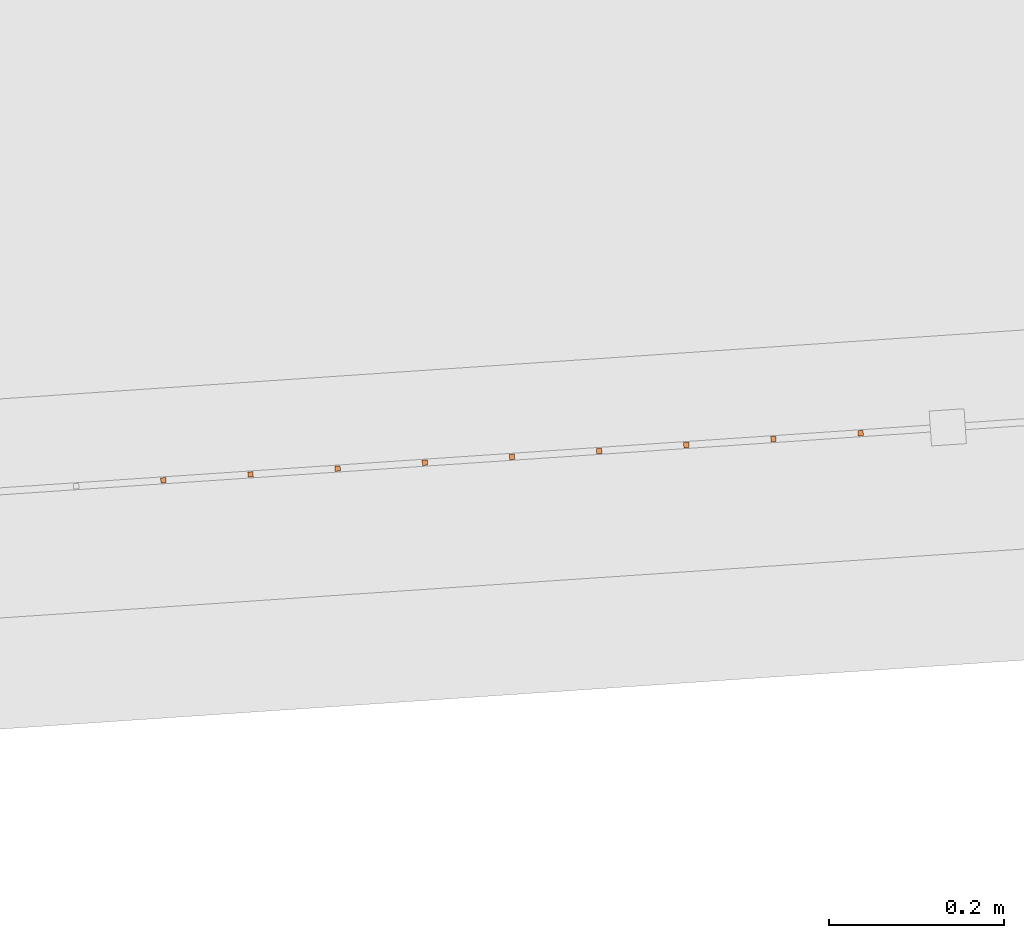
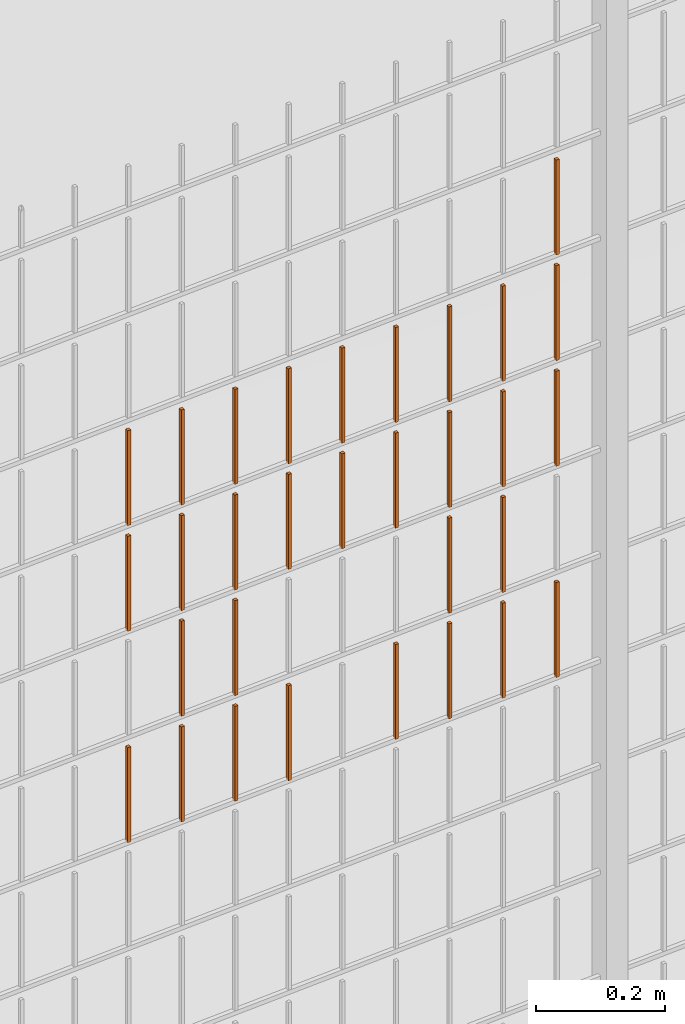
# One storey, part 335 of 1809: 31 proxies, 1 element without a shape of its own.
"""IFC2X3 building model written with IfcOpenShell, lengths in millimetres."""

from ifc_helpers import new_model, entity, si_unit, converted_unit, derived_unit, money_unit, direction, frame, origin_with_axes, place, context, subcontext, project, spatial, faceted_brep, source, transform, mapped, material, type_object, element, aggregate, save


model = new_model("IFC2X3")

# Units and contexts
model_context = context("Model", 3, precision=0.01, world=origin_with_axes(), true_north=direction((0.0, 1.0)))
body_context = subcontext(model_context, "Body", "Model", "MODEL_VIEW")
ifc_project = project(units=[si_unit("LENGTHUNIT", "METRE", prefix="MILLI"), si_unit("AREAUNIT", "SQUARE_METRE"), si_unit("VOLUMEUNIT", "CUBIC_METRE"), converted_unit("PLANEANGLEUNIT", "DEGREE", entity("IfcPlaneAngleMeasure", 0.0174532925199), si_unit("PLANEANGLEUNIT", "RADIAN"), dimensions=[0, 0, 0, 0, 0, 0, 0]), si_unit("SOLIDANGLEUNIT", "STERADIAN"), money_unit("EUR"), converted_unit("TIMEUNIT", "Year", entity("IfcTimeMeasure", 31556926.0), si_unit("TIMEUNIT", "SECOND"), dimensions=[0, 0, 1, 0, 0, 0, 0]), si_unit("MASSUNIT", "GRAM", prefix="KILO"), si_unit("THERMODYNAMICTEMPERATUREUNIT", "DEGREE_CELSIUS"), si_unit("LUMINOUSINTENSITYUNIT", "LUMEN"), si_unit("ENERGYUNIT", "JOULE", prefix="MEGA"), derived_unit("THERMALCONDUCTANCEUNIT", [(si_unit("POWERUNIT", "WATT"), 1), (si_unit("LENGTHUNIT", "METRE"), -1), (si_unit("THERMODYNAMICTEMPERATUREUNIT", "KELVIN"), -1)]), derived_unit("SPECIFICHEATCAPACITYUNIT", [(si_unit("ENERGYUNIT", "JOULE"), 1), (si_unit("MASSUNIT", "GRAM", prefix="KILO"), -1), (si_unit("THERMODYNAMICTEMPERATUREUNIT", "KELVIN"), -1)]), derived_unit("MASSDENSITYUNIT", [(si_unit("MASSUNIT", "GRAM", prefix="KILO"), 1), (si_unit("VOLUMEUNIT", "CUBIC_METRE"), -1)])], contexts=[model_context])

# Site, building, storey
site_placement = place(None, origin_with_axes())
site = spatial("IfcSite", under=ifc_project, at=site_placement, Name="Politse- ja Piirivalveameti ning Päästeameti ühishoone", CompositionType="ELEMENT")
building_placement = place(site_placement, origin_with_axes())
building = spatial("IfcBuilding", under=site, at=building_placement, Name="Politse- ja Piirivalveameti ning Päästeameti ühishoone", CompositionType="ELEMENT")
storey_placement = place(building_placement, origin_with_axes())
storey = spatial("IfcBuildingStorey", under=building, at=storey_placement, Name="Esimene korrus", CompositionType="ELEMENT", Elevation=0.0)

# Proxies
building_element_proxy_type_1 = type_object("IfcBuildingElementProxyType", Name="Railing Type", PredefinedType="NOTDEFINED")
proxy_1_placement = place(storey_placement, frame((89252.001212, -29183.4766571, 203.661247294), z_axis=(0.0, 0.0, 1.0), x_axis=(1.0, 0.0, 0.0)))
proxy_1 = element("IfcBuildingElementProxy", 1, at=proxy_1_placement, inside=storey, type_object=building_element_proxy_type_1, Name="PIIRDEAED")
ifc_material = material(Name="ET-03_Raud")
building_element_proxy_type_2 = type_object("IfcBuildingElementProxyType", Name="IfcBuildingElementProxy", PredefinedType="NOTDEFINED")
shared_shape_1 = source(origin_with_axes(), body_context, "Body", "Brep", [
    faceted_brep([(3.0, 3.0, -0.000752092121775), (-3.0, 3.0, -0.000752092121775), (-3.0, 3.0, 179.99926046), (3.0, 3.0, 179.99926046), (3.0, -3.0, 0.000752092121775), (-3.0, -3.0, 0.000752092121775), (-3.0, -3.0, 180.000764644), (3.0, -3.0, 180.000764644)], [[[0, 1, 2, 3]], [[0, 4, 5, 1]], [[1, 5, 6, 2]], [[3, 2, 6, 7]], [[4, 0, 3, 7]], [[5, 4, 7, 6]]]),
])
proxy_2_placement = place(proxy_1_placement, frame((-32352.9668747, -19483.0955783, 819.105099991), z_axis=(0.0, 0.0, 1.0), x_axis=(1.0, 0.0, 0.0)))
proxy_2 = element("IfcBuildingElementProxy", 2, at=proxy_2_placement, type_object=building_element_proxy_type_2, material=ifc_material, Name="BALUSTER - 001", context=body_context, shape_type="MappedRepresentation", body=[
    mapped(shared_shape_1, transform((0.0, 0.0, 0.0), x_axis=(-0.0673926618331, 0.997726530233, 0.0), y_axis=(-0.997726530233, -0.0673926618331, 0.0), z_axis=(0.0, 0.0, 1.0))),
])
shared_shape_2 = source(origin_with_axes(), body_context, "Body", "Brep", [
    faceted_brep([(3.0, 3.0, -0.000752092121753), (-3.0, 3.0, -0.000752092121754), (-3.0, 3.0, 179.99926046), (3.0, 3.0, 179.99926046), (3.0, -3.0, 0.000752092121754), (-3.0, -3.0, 0.000752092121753), (-3.0, -3.0, 180.000764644), (3.0, -3.0, 180.000764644)], [[[0, 1, 2, 3]], [[0, 4, 5, 1]], [[1, 5, 6, 2]], [[3, 2, 6, 7]], [[4, 0, 3, 7]], [[5, 4, 7, 6]]]),
])
proxy_3_placement = place(proxy_1_placement, frame((-32652.2848338, -19503.3133769, 1219.02989078), z_axis=(0.0, 0.0, 1.0), x_axis=(1.0, 0.0, 0.0)))
proxy_3 = element("IfcBuildingElementProxy", 3, at=proxy_3_placement, type_object=building_element_proxy_type_2, material=ifc_material, Name="BALUSTER - 001", context=body_context, shape_type="MappedRepresentation", body=[
    mapped(shared_shape_2, transform((0.0, 0.0, 0.0), x_axis=(-0.0673926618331, 0.997726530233, 0.0), y_axis=(-0.997726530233, -0.0673926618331, 0.0), z_axis=(0.0, 0.0, 1.0))),
])
shared_shape_3 = source(origin_with_axes(), body_context, "Body", "Brep", [
    faceted_brep([(3.0, 3.0, -0.000752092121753), (-3.0, 3.0, -0.000752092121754), (-3.0, 3.0, 179.99926046), (3.0, 3.0, 179.99926046), (3.0, -3.0, 0.000752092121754), (-3.0, -3.0, 0.000752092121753), (-3.0, -3.0, 180.000764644), (3.0, -3.0, 180.000764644)], [[[0, 1, 2, 3]], [[0, 4, 5, 1]], [[1, 5, 6, 2]], [[3, 2, 6, 7]], [[4, 0, 3, 7]], [[5, 4, 7, 6]]]),
])
proxy_4_placement = place(proxy_1_placement, frame((-32652.2848338, -19503.3133769, 1419.02989078), z_axis=(0.0, 0.0, 1.0), x_axis=(1.0, 0.0, 0.0)))
proxy_4 = element("IfcBuildingElementProxy", 4, at=proxy_4_placement, type_object=building_element_proxy_type_2, material=ifc_material, Name="BALUSTER - 001", context=body_context, shape_type="MappedRepresentation", body=[
    mapped(shared_shape_3, transform((0.0, 0.0, 0.0), x_axis=(-0.0673926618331, 0.997726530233, 0.0), y_axis=(-0.997726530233, -0.0673926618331, 0.0), z_axis=(0.0, 0.0, 1.0))),
])
shared_shape_4 = source(origin_with_axes(), body_context, "Body", "Brep", [
    faceted_brep([(3.0, 3.0, -0.000752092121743), (-3.0, 3.0, -0.000752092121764), (-3.0, 3.0, 179.99926046), (3.0, 3.0, 179.99926046), (3.0, -3.0, 0.000752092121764), (-3.0, -3.0, 0.000752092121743), (-3.0, -3.0, 180.000764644), (3.0, -3.0, 180.000764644)], [[[0, 1, 2, 3]], [[0, 4, 5, 1]], [[1, 5, 6, 2]], [[3, 2, 6, 7]], [[4, 0, 3, 7]], [[5, 4, 7, 6]]]),
])
proxy_5_placement = place(proxy_1_placement, frame((-33151.1480989, -19537.0097078, 818.904542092), z_axis=(0.0, 0.0, 1.0), x_axis=(1.0, 0.0, 0.0)))
proxy_5 = element("IfcBuildingElementProxy", 5, at=proxy_5_placement, type_object=building_element_proxy_type_2, material=ifc_material, Name="BALUSTER - 001", context=body_context, shape_type="MappedRepresentation", body=[
    mapped(shared_shape_4, transform((0.0, 0.0, 0.0), x_axis=(-0.0673926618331, 0.997726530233, 0.0), y_axis=(-0.997726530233, -0.0673926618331, 0.0), z_axis=(0.0, 0.0, 1.0))),
])
shared_shape_5 = source(origin_with_axes(), body_context, "Body", "Brep", [
    faceted_brep([(3.0, 3.0, -0.000752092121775), (-3.0, 3.0, -0.000752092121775), (-3.0, 3.0, 179.99926046), (3.0, 3.0, 179.99926046), (3.0, -3.0, 0.000752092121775), (-3.0, -3.0, 0.000752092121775), (-3.0, -3.0, 180.000764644), (3.0, -3.0, 180.000764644)], [[[0, 1, 2, 3]], [[0, 4, 5, 1]], [[1, 5, 6, 2]], [[3, 2, 6, 7]], [[4, 0, 3, 7]], [[5, 4, 7, 6]]]),
])
proxy_6_placement = place(proxy_1_placement, frame((-33051.3754459, -19530.2704416, 818.92961183), z_axis=(0.0, 0.0, 1.0), x_axis=(1.0, 0.0, 0.0)))
proxy_6 = element("IfcBuildingElementProxy", 6, at=proxy_6_placement, type_object=building_element_proxy_type_2, material=ifc_material, Name="BALUSTER - 001", context=body_context, shape_type="MappedRepresentation", body=[
    mapped(shared_shape_5, transform((0.0, 0.0, 0.0), x_axis=(-0.0673926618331, 0.997726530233, 0.0), y_axis=(-0.997726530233, -0.0673926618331, 0.0), z_axis=(0.0, 0.0, 1.0))),
])
shared_shape_6 = source(origin_with_axes(), body_context, "Body", "Brep", [
    faceted_brep([(3.0, 3.0, -0.000752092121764), (-3.0, 3.0, -0.000752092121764), (-3.0, 3.0, 179.99926046), (3.0, 3.0, 179.99926046), (3.0, -3.0, 0.000752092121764), (-3.0, -3.0, 0.000752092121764), (-3.0, -3.0, 180.000764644), (3.0, -3.0, 180.000764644)], [[[0, 1, 2, 3]], [[0, 4, 5, 1]], [[1, 5, 6, 2]], [[3, 2, 6, 7]], [[4, 0, 3, 7]], [[5, 4, 7, 6]]]),
])
proxy_7_placement = place(proxy_1_placement, frame((-32452.7395278, -19489.8348445, 819.080030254), z_axis=(0.0, 0.0, 1.0), x_axis=(1.0, 0.0, 0.0)))
proxy_7 = element("IfcBuildingElementProxy", 7, at=proxy_7_placement, type_object=building_element_proxy_type_2, material=ifc_material, Name="BALUSTER - 001", context=body_context, shape_type="MappedRepresentation", body=[
    mapped(shared_shape_6, transform((0.0, 0.0, 0.0), x_axis=(-0.0673926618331, 0.997726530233, 0.0), y_axis=(-0.997726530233, -0.0673926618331, 0.0), z_axis=(0.0, 0.0, 1.0))),
])
proxy_8_placement = place(proxy_1_placement, frame((-33151.1480989, -19537.0097078, 1218.90454209), z_axis=(0.0, 0.0, 1.0), x_axis=(1.0, 0.0, 0.0)))
proxy_8 = element("IfcBuildingElementProxy", 8, at=proxy_8_placement, type_object=building_element_proxy_type_2, material=ifc_material, Name="BALUSTER - 001", context=body_context, shape_type="MappedRepresentation", body=[
    mapped(shared_shape_6, transform((0.0, 0.0, 0.0), x_axis=(-0.0673926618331, 0.997726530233, 0.0), y_axis=(-0.997726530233, -0.0673926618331, 0.0), z_axis=(0.0, 0.0, 1.0))),
])
shared_shape_7 = source(origin_with_axes(), body_context, "Body", "Brep", [
    faceted_brep([(3.0, 3.0, -0.000752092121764), (-3.0, 3.0, -0.000752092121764), (-3.0, 3.0, 179.99926046), (3.0, 3.0, 179.99926046), (3.0, -3.0, 0.000752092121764), (-3.0, -3.0, 0.000752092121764), (-3.0, -3.0, 180.000764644), (3.0, -3.0, 180.000764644)], [[[0, 1, 2, 3]], [[0, 4, 5, 1]], [[1, 5, 6, 2]], [[3, 2, 6, 7]], [[4, 0, 3, 7]], [[5, 4, 7, 6]]]),
])
proxy_9_placement = place(proxy_1_placement, frame((-33151.1480989, -19537.0097078, 1418.90454209), z_axis=(0.0, 0.0, 1.0), x_axis=(1.0, 0.0, 0.0)))
proxy_9 = element("IfcBuildingElementProxy", 9, at=proxy_9_placement, type_object=building_element_proxy_type_2, material=ifc_material, Name="BALUSTER - 001", context=body_context, shape_type="MappedRepresentation", body=[
    mapped(shared_shape_7, transform((0.0, 0.0, 0.0), x_axis=(-0.0673926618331, 0.997726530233, 0.0), y_axis=(-0.997726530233, -0.0673926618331, 0.0), z_axis=(0.0, 0.0, 1.0))),
])
shared_shape_8 = source(origin_with_axes(), body_context, "Body", "Brep", [
    faceted_brep([(3.0, 3.0, -0.000752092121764), (-3.0, 3.0, -0.000752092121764), (-3.0, 3.0, 179.99926046), (3.0, 3.0, 179.99926046), (3.0, -3.0, 0.000752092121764), (-3.0, -3.0, 0.000752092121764), (-3.0, -3.0, 180.000764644), (3.0, -3.0, 180.000764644)], [[[0, 1, 2, 3]], [[0, 4, 5, 1]], [[1, 5, 6, 2]], [[3, 2, 6, 7]], [[4, 0, 3, 7]], [[5, 4, 7, 6]]]),
])
proxy_10_placement = place(proxy_1_placement, frame((-32552.5121808, -19496.5741107, 1219.05496052), z_axis=(0.0, 0.0, 1.0), x_axis=(1.0, 0.0, 0.0)))
proxy_10 = element("IfcBuildingElementProxy", 10, at=proxy_10_placement, type_object=building_element_proxy_type_2, material=ifc_material, Name="BALUSTER - 001", context=body_context, shape_type="MappedRepresentation", body=[
    mapped(shared_shape_8, transform((0.0, 0.0, 0.0), x_axis=(-0.0673926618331, 0.997726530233, 0.0), y_axis=(-0.997726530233, -0.0673926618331, 0.0), z_axis=(0.0, 0.0, 1.0))),
])
shared_shape_9 = source(origin_with_axes(), body_context, "Body", "Brep", [
    faceted_brep([(3.0, 3.0, -0.000752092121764), (-3.0, 3.0, -0.000752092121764), (-3.0, 3.0, 179.99926046), (3.0, 3.0, 179.99926046), (3.0, -3.0, 0.000752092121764), (-3.0, -3.0, 0.000752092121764), (-3.0, -3.0, 180.000764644), (3.0, -3.0, 180.000764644)], [[[0, 1, 2, 3]], [[0, 4, 5, 1]], [[1, 5, 6, 2]], [[3, 2, 6, 7]], [[4, 0, 3, 7]], [[5, 4, 7, 6]]]),
])
proxy_11_placement = place(proxy_1_placement, frame((-32851.8301399, -19516.7919092, 818.979751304), z_axis=(0.0, 0.0, 1.0), x_axis=(1.0, 0.0, 0.0)))
proxy_11 = element("IfcBuildingElementProxy", 11, at=proxy_11_placement, type_object=building_element_proxy_type_2, material=ifc_material, Name="BALUSTER - 001", context=body_context, shape_type="MappedRepresentation", body=[
    mapped(shared_shape_9, transform((0.0, 0.0, 0.0), x_axis=(-0.0673926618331, 0.997726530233, 0.0), y_axis=(-0.997726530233, -0.0673926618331, 0.0), z_axis=(0.0, 0.0, 1.0))),
])
shared_shape_10 = source(origin_with_axes(), body_context, "Body", "Brep", [
    faceted_brep([(3.0, 3.0, -0.000752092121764), (-3.0, 3.0, -0.000752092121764), (-3.0, 3.0, 179.99926046), (3.0, 3.0, 179.99926046), (3.0, -3.0, 0.000752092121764), (-3.0, -3.0, 0.000752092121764), (-3.0, -3.0, 180.000764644), (3.0, -3.0, 180.000764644)], [[[0, 1, 2, 3]], [[0, 4, 5, 1]], [[1, 5, 6, 2]], [[3, 2, 6, 7]], [[4, 0, 3, 7]], [[5, 4, 7, 6]]]),
])
proxy_12_placement = place(proxy_1_placement, frame((-33051.3754459, -19530.2704416, 1418.92961183), z_axis=(0.0, 0.0, 1.0), x_axis=(1.0, 0.0, 0.0)))
proxy_12 = element("IfcBuildingElementProxy", 12, at=proxy_12_placement, type_object=building_element_proxy_type_2, material=ifc_material, Name="BALUSTER - 001", context=body_context, shape_type="MappedRepresentation", body=[
    mapped(shared_shape_10, transform((0.0, 0.0, 0.0), x_axis=(-0.0673926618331, 0.997726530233, 0.0), y_axis=(-0.997726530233, -0.0673926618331, 0.0), z_axis=(0.0, 0.0, 1.0))),
])
shared_shape_11 = source(origin_with_axes(), body_context, "Body", "Brep", [
    faceted_brep([(3.0, 3.0, -0.000752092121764), (-3.0, 3.0, -0.000752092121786), (-3.0, 3.0, 179.99926046), (3.0, 3.0, 179.99926046), (3.0, -3.0, 0.000752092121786), (-3.0, -3.0, 0.000752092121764), (-3.0, -3.0, 180.000764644), (3.0, -3.0, 180.000764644)], [[[0, 1, 2, 3]], [[0, 4, 5, 1]], [[1, 5, 6, 2]], [[3, 2, 6, 7]], [[4, 0, 3, 7]], [[5, 4, 7, 6]]]),
])
proxy_13_placement = place(proxy_1_placement, frame((-32652.2848338, -19503.3133769, 819.029890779), z_axis=(0.0, 0.0, 1.0), x_axis=(1.0, 0.0, 0.0)))
proxy_13 = element("IfcBuildingElementProxy", 13, at=proxy_13_placement, type_object=building_element_proxy_type_2, material=ifc_material, Name="BALUSTER - 001", context=body_context, shape_type="MappedRepresentation", body=[
    mapped(shared_shape_11, transform((0.0, 0.0, 0.0), x_axis=(-0.0673926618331, 0.997726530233, 0.0), y_axis=(-0.997726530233, -0.0673926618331, 0.0), z_axis=(0.0, 0.0, 1.0))),
])
shared_shape_12 = source(origin_with_axes(), body_context, "Body", "Brep", [
    faceted_brep([(3.0, 3.0, -0.000752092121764), (-3.0, 3.0, -0.000752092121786), (-3.0, 3.0, 179.99926046), (3.0, 3.0, 179.99926046), (3.0, -3.0, 0.000752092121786), (-3.0, -3.0, 0.000752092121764), (-3.0, -3.0, 180.000764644), (3.0, -3.0, 180.000764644)], [[[0, 1, 2, 3]], [[0, 4, 5, 1]], [[1, 5, 6, 2]], [[3, 2, 6, 7]], [[4, 0, 3, 7]], [[5, 4, 7, 6]]]),
])
proxy_14_placement = place(proxy_1_placement, frame((-32951.6027929, -19523.5311754, 818.954681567), z_axis=(0.0, 0.0, 1.0), x_axis=(1.0, 0.0, 0.0)))
proxy_14 = element("IfcBuildingElementProxy", 14, at=proxy_14_placement, type_object=building_element_proxy_type_2, material=ifc_material, Name="BALUSTER - 001", context=body_context, shape_type="MappedRepresentation", body=[
    mapped(shared_shape_12, transform((0.0, 0.0, 0.0), x_axis=(-0.0673926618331, 0.997726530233, 0.0), y_axis=(-0.997726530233, -0.0673926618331, 0.0), z_axis=(0.0, 0.0, 1.0))),
])
shared_shape_13 = source(origin_with_axes(), body_context, "Body", "Brep", [
    faceted_brep([(3.0, 3.0, -0.000752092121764), (-3.0, 3.0, -0.000752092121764), (-3.0, 3.0, 179.99926046), (3.0, 3.0, 179.99926046), (3.0, -3.0, 0.000752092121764), (-3.0, -3.0, 0.000752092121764), (-3.0, -3.0, 180.000764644), (3.0, -3.0, 180.000764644)], [[[0, 1, 2, 3]], [[0, 4, 5, 1]], [[1, 5, 6, 2]], [[3, 2, 6, 7]], [[4, 0, 3, 7]], [[5, 4, 7, 6]]]),
])
proxy_15_placement = place(proxy_1_placement, frame((-33051.3754459, -19530.2704416, 1218.92961183), z_axis=(0.0, 0.0, 1.0), x_axis=(1.0, 0.0, 0.0)))
proxy_15 = element("IfcBuildingElementProxy", 15, at=proxy_15_placement, type_object=building_element_proxy_type_2, material=ifc_material, Name="BALUSTER - 001", context=body_context, shape_type="MappedRepresentation", body=[
    mapped(shared_shape_13, transform((0.0, 0.0, 0.0), x_axis=(-0.0673926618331, 0.997726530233, 0.0), y_axis=(-0.997726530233, -0.0673926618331, 0.0), z_axis=(0.0, 0.0, 1.0))),
])
shared_shape_14 = source(origin_with_axes(), body_context, "Body", "Brep", [
    faceted_brep([(3.0, 3.0, -0.000752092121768), (-3.0, 3.0, -0.000752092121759), (-3.00000000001, 2.99999999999, 179.99926046), (2.99999999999, 2.99999999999, 179.99926046), (3.0, -3.0, 0.000752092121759), (-3.0, -3.0, 0.000752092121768), (-3.00000000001, -3.00000000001, 180.000764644), (2.99999999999, -3.00000000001, 180.000764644)], [[[0, 1, 2, 3]], [[0, 4, 5, 1]], [[1, 5, 6, 2]], [[3, 2, 6, 7]], [[4, 0, 3, 7]], [[5, 4, 7, 6]]]),
])
proxy_16_placement = place(proxy_1_placement, frame((-32552.5121808, -19496.5741107, 1019.05496052), z_axis=(0.0, 0.0, 1.0), x_axis=(1.0, 0.0, 0.0)))
proxy_16 = element("IfcBuildingElementProxy", 16, at=proxy_16_placement, type_object=building_element_proxy_type_2, material=ifc_material, Name="BALUSTER - 001", context=body_context, shape_type="MappedRepresentation", body=[
    mapped(shared_shape_14, transform((0.0, 0.0, 0.0), x_axis=(-0.0673926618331, 0.997726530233, 0.0), y_axis=(-0.997726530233, -0.0673926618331, 0.0), z_axis=(0.0, 0.0, 1.0))),
])
shared_shape_15 = source(origin_with_axes(), body_context, "Body", "Brep", [
    faceted_brep([(3.0, 3.0, -0.000752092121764), (-3.0, 3.0, -0.000752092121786), (-3.0, 3.0, 179.99926046), (3.0, 3.0, 179.99926046), (3.0, -3.0, 0.000752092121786), (-3.0, -3.0, 0.000752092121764), (-3.0, -3.0, 180.000764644), (3.0, -3.0, 180.000764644)], [[[0, 1, 2, 3]], [[0, 4, 5, 1]], [[1, 5, 6, 2]], [[3, 2, 6, 7]], [[4, 0, 3, 7]], [[5, 4, 7, 6]]]),
])
proxy_17_placement = place(proxy_1_placement, frame((-32951.6027929, -19523.5311754, 1218.95468157), z_axis=(0.0, 0.0, 1.0), x_axis=(1.0, 0.0, 0.0)))
proxy_17 = element("IfcBuildingElementProxy", 17, at=proxy_17_placement, type_object=building_element_proxy_type_2, material=ifc_material, Name="BALUSTER - 001", context=body_context, shape_type="MappedRepresentation", body=[
    mapped(shared_shape_15, transform((0.0, 0.0, 0.0), x_axis=(-0.0673926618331, 0.997726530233, 0.0), y_axis=(-0.997726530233, -0.0673926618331, 0.0), z_axis=(0.0, 0.0, 1.0))),
])
shared_shape_16 = source(origin_with_axes(), body_context, "Body", "Brep", [
    faceted_brep([(3.0, 3.0, -0.000752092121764), (-3.0, 3.0, -0.000752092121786), (-3.0, 3.0, 179.99926046), (3.0, 3.0, 179.99926046), (3.0, -3.0, 0.000752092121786), (-3.0, -3.0, 0.000752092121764), (-3.0, -3.0, 180.000764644), (3.0, -3.0, 180.000764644)], [[[0, 1, 2, 3]], [[0, 4, 5, 1]], [[1, 5, 6, 2]], [[3, 2, 6, 7]], [[4, 0, 3, 7]], [[5, 4, 7, 6]]]),
])
proxy_18_placement = place(proxy_1_placement, frame((-32951.6027929, -19523.5311754, 1418.95468157), z_axis=(0.0, 0.0, 1.0), x_axis=(1.0, 0.0, 0.0)))
proxy_18 = element("IfcBuildingElementProxy", 18, at=proxy_18_placement, type_object=building_element_proxy_type_2, material=ifc_material, Name="BALUSTER - 001", context=body_context, shape_type="MappedRepresentation", body=[
    mapped(shared_shape_16, transform((0.0, 0.0, 0.0), x_axis=(-0.0673926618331, 0.997726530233, 0.0), y_axis=(-0.997726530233, -0.0673926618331, 0.0), z_axis=(0.0, 0.0, 1.0))),
])
shared_shape_17 = source(origin_with_axes(), body_context, "Body", "Brep", [
    faceted_brep([(3.0, 3.0, -0.000752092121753), (-3.0, 3.0, -0.000752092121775), (-3.0, 3.0, 179.99926046), (3.0, 3.0, 179.99926046), (3.0, -3.0, 0.000752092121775), (-3.0, -3.0, 0.000752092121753), (-3.0, -3.0, 180.000764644), (3.0, -3.0, 180.000764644)], [[[0, 1, 2, 3]], [[0, 4, 5, 1]], [[1, 5, 6, 2]], [[3, 2, 6, 7]], [[4, 0, 3, 7]], [[5, 4, 7, 6]]]),
])
proxy_19_placement = place(proxy_1_placement, frame((-32752.0574868, -19510.052643, 1219.00482104), z_axis=(0.0, 0.0, 1.0), x_axis=(1.0, 0.0, 0.0)))
proxy_19 = element("IfcBuildingElementProxy", 19, at=proxy_19_placement, type_object=building_element_proxy_type_2, material=ifc_material, Name="BALUSTER - 001", context=body_context, shape_type="MappedRepresentation", body=[
    mapped(shared_shape_17, transform((0.0, 0.0, 0.0), x_axis=(-0.0673926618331, 0.997726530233, 0.0), y_axis=(-0.997726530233, -0.0673926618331, 0.0), z_axis=(0.0, 0.0, 1.0))),
])
shared_shape_18 = source(origin_with_axes(), body_context, "Body", "Brep", [
    faceted_brep([(3.0, 3.0, -0.000752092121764), (-3.0, 3.0, -0.000752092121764), (-3.0, 3.0, 179.99926046), (3.0, 3.0, 179.99926046), (3.0, -3.0, 0.000752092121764), (-3.0, -3.0, 0.000752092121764), (-3.0, -3.0, 180.000764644), (3.0, -3.0, 180.000764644)], [[[0, 1, 2, 3]], [[0, 4, 5, 1]], [[1, 5, 6, 2]], [[3, 2, 6, 7]], [[4, 0, 3, 7]], [[5, 4, 7, 6]]]),
])
proxy_20_placement = place(proxy_1_placement, frame((-32352.9668747, -19483.0955783, 1619.10509999), z_axis=(0.0, 0.0, 1.0), x_axis=(1.0, 0.0, 0.0)))
proxy_20 = element("IfcBuildingElementProxy", 20, at=proxy_20_placement, type_object=building_element_proxy_type_2, material=ifc_material, Name="BALUSTER - 001", context=body_context, shape_type="MappedRepresentation", body=[
    mapped(shared_shape_18, transform((0.0, 0.0, 0.0), x_axis=(-0.0673926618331, 0.997726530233, 0.0), y_axis=(-0.997726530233, -0.0673926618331, 0.0), z_axis=(0.0, 0.0, 1.0))),
])
shared_shape_19 = source(origin_with_axes(), body_context, "Body", "Brep", [
    faceted_brep([(3.0, 3.0, -0.000752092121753), (-3.0, 3.0, -0.000752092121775), (-3.0, 3.0, 179.99926046), (3.0, 3.0, 179.99926046), (3.0, -3.0, 0.000752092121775), (-3.0, -3.0, 0.000752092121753), (-3.0, -3.0, 180.000764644), (3.0, -3.0, 180.000764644)], [[[0, 1, 2, 3]], [[0, 4, 5, 1]], [[1, 5, 6, 2]], [[3, 2, 6, 7]], [[4, 0, 3, 7]], [[5, 4, 7, 6]]]),
])
proxy_21_placement = place(proxy_1_placement, frame((-32851.8301399, -19516.7919092, 1218.9797513), z_axis=(0.0, 0.0, 1.0), x_axis=(1.0, 0.0, 0.0)))
proxy_21 = element("IfcBuildingElementProxy", 21, at=proxy_21_placement, type_object=building_element_proxy_type_2, material=ifc_material, Name="BALUSTER - 001", context=body_context, shape_type="MappedRepresentation", body=[
    mapped(shared_shape_19, transform((0.0, 0.0, 0.0), x_axis=(-0.0673926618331, 0.997726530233, 0.0), y_axis=(-0.997726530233, -0.0673926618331, 0.0), z_axis=(0.0, 0.0, 1.0))),
])
shared_shape_20 = source(origin_with_axes(), body_context, "Body", "Brep", [
    faceted_brep([(3.0, 3.0, -0.000752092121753), (-3.0, 3.0, -0.000752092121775), (-3.0, 3.0, 179.99926046), (3.0, 3.0, 179.99926046), (3.0, -3.0, 0.000752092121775), (-3.0, -3.0, 0.000752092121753), (-3.0, -3.0, 180.000764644), (3.0, -3.0, 180.000764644)], [[[0, 1, 2, 3]], [[0, 4, 5, 1]], [[1, 5, 6, 2]], [[3, 2, 6, 7]], [[4, 0, 3, 7]], [[5, 4, 7, 6]]]),
])
proxy_22_placement = place(proxy_1_placement, frame((-32752.0574868, -19510.052643, 1419.00482104), z_axis=(0.0, 0.0, 1.0), x_axis=(1.0, 0.0, 0.0)))
proxy_22 = element("IfcBuildingElementProxy", 22, at=proxy_22_placement, type_object=building_element_proxy_type_2, material=ifc_material, Name="BALUSTER - 001", context=body_context, shape_type="MappedRepresentation", body=[
    mapped(shared_shape_20, transform((0.0, 0.0, 0.0), x_axis=(-0.0673926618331, 0.997726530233, 0.0), y_axis=(-0.997726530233, -0.0673926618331, 0.0), z_axis=(0.0, 0.0, 1.0))),
])
shared_shape_21 = source(origin_with_axes(), body_context, "Body", "Brep", [
    faceted_brep([(3.0, 3.0, -0.000752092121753), (-3.0, 3.0, -0.000752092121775), (-3.0, 3.0, 179.99926046), (3.0, 3.0, 179.99926046), (3.0, -3.0, 0.000752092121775), (-3.0, -3.0, 0.000752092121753), (-3.0, -3.0, 180.000764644), (3.0, -3.0, 180.000764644)], [[[0, 1, 2, 3]], [[0, 4, 5, 1]], [[1, 5, 6, 2]], [[3, 2, 6, 7]], [[4, 0, 3, 7]], [[5, 4, 7, 6]]]),
])
proxy_23_placement = place(proxy_1_placement, frame((-32851.8301399, -19516.7919092, 1418.9797513), z_axis=(0.0, 0.0, 1.0), x_axis=(1.0, 0.0, 0.0)))
proxy_23 = element("IfcBuildingElementProxy", 23, at=proxy_23_placement, type_object=building_element_proxy_type_2, material=ifc_material, Name="BALUSTER - 001", context=body_context, shape_type="MappedRepresentation", body=[
    mapped(shared_shape_21, transform((0.0, 0.0, 0.0), x_axis=(-0.0673926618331, 0.997726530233, 0.0), y_axis=(-0.997726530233, -0.0673926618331, 0.0), z_axis=(0.0, 0.0, 1.0))),
])
shared_shape_22 = source(origin_with_axes(), body_context, "Body", "Brep", [
    faceted_brep([(3.0, 3.0, -0.000752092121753), (-3.0, 3.0, -0.000752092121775), (-3.0, 3.0, 179.99926046), (3.0, 3.0, 179.99926046), (3.0, -3.0, 0.000752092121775), (-3.0, -3.0, 0.000752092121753), (-3.0, -3.0, 180.000764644), (3.0, -3.0, 180.000764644)], [[[0, 1, 2, 3]], [[0, 4, 5, 1]], [[1, 5, 6, 2]], [[3, 2, 6, 7]], [[4, 0, 3, 7]], [[5, 4, 7, 6]]]),
])
proxy_24_placement = place(proxy_1_placement, frame((-32552.5121808, -19496.5741107, 819.054960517), z_axis=(0.0, 0.0, 1.0), x_axis=(1.0, 0.0, 0.0)))
proxy_24 = element("IfcBuildingElementProxy", 24, at=proxy_24_placement, type_object=building_element_proxy_type_2, material=ifc_material, Name="BALUSTER - 001", context=body_context, shape_type="MappedRepresentation", body=[
    mapped(shared_shape_22, transform((0.0, 0.0, 0.0), x_axis=(-0.0673926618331, 0.997726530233, 0.0), y_axis=(-0.997726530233, -0.0673926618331, 0.0), z_axis=(0.0, 0.0, 1.0))),
])
shared_shape_23 = source(origin_with_axes(), body_context, "Body", "Brep", [
    faceted_brep([(3.0, 3.0, -0.000752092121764), (-3.0, 3.0, -0.000752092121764), (-3.0, 3.0, 179.99926046), (3.0, 3.0, 179.99926046), (3.0, -3.0, 0.000752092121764), (-3.0, -3.0, 0.000752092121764), (-3.0, -3.0, 180.000764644), (3.0, -3.0, 180.000764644)], [[[0, 1, 2, 3]], [[0, 4, 5, 1]], [[1, 5, 6, 2]], [[3, 2, 6, 7]], [[4, 0, 3, 7]], [[5, 4, 7, 6]]]),
])
proxy_25_placement = place(proxy_1_placement, frame((-32352.9668747, -19483.0955783, 1219.10509999), z_axis=(0.0, 0.0, 1.0), x_axis=(1.0, 0.0, 0.0)))
proxy_25 = element("IfcBuildingElementProxy", 25, at=proxy_25_placement, type_object=building_element_proxy_type_2, material=ifc_material, Name="BALUSTER - 001", context=body_context, shape_type="MappedRepresentation", body=[
    mapped(shared_shape_23, transform((0.0, 0.0, 0.0), x_axis=(-0.0673926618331, 0.997726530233, 0.0), y_axis=(-0.997726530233, -0.0673926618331, 0.0), z_axis=(0.0, 0.0, 1.0))),
])
shared_shape_24 = source(origin_with_axes(), body_context, "Body", "Brep", [
    faceted_brep([(3.0, 3.0, -0.000752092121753), (-3.0, 3.0, -0.000752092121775), (-3.0, 3.0, 179.99926046), (3.0, 3.0, 179.99926046), (3.0, -3.0, 0.000752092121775), (-3.0, -3.0, 0.000752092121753), (-3.0, -3.0, 180.000764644), (3.0, -3.0, 180.000764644)], [[[0, 1, 2, 3]], [[0, 4, 5, 1]], [[1, 5, 6, 2]], [[3, 2, 6, 7]], [[4, 0, 3, 7]], [[5, 4, 7, 6]]]),
])
proxy_26_placement = place(proxy_1_placement, frame((-32452.7395278, -19489.8348445, 1219.08003025), z_axis=(0.0, 0.0, 1.0), x_axis=(1.0, 0.0, 0.0)))
proxy_26 = element("IfcBuildingElementProxy", 26, at=proxy_26_placement, type_object=building_element_proxy_type_2, material=ifc_material, Name="BALUSTER - 001", context=body_context, shape_type="MappedRepresentation", body=[
    mapped(shared_shape_24, transform((0.0, 0.0, 0.0), x_axis=(-0.0673926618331, 0.997726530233, 0.0), y_axis=(-0.997726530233, -0.0673926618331, 0.0), z_axis=(0.0, 0.0, 1.0))),
])
shared_shape_25 = source(origin_with_axes(), body_context, "Body", "Brep", [
    faceted_brep([(3.0, 3.0, -0.000752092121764), (-3.0, 3.0, -0.000752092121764), (-3.0, 3.0, 179.99926046), (3.0, 3.0, 179.99926046), (3.0, -3.0, 0.000752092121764), (-3.0, -3.0, 0.000752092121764), (-3.0, -3.0, 180.000764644), (3.0, -3.0, 180.000764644)], [[[0, 1, 2, 3]], [[0, 4, 5, 1]], [[1, 5, 6, 2]], [[3, 2, 6, 7]], [[4, 0, 3, 7]], [[5, 4, 7, 6]]]),
])
proxy_27_placement = place(proxy_1_placement, frame((-32352.9668747, -19483.0955783, 1419.10509999), z_axis=(0.0, 0.0, 1.0), x_axis=(1.0, 0.0, 0.0)))
proxy_27 = element("IfcBuildingElementProxy", 27, at=proxy_27_placement, type_object=building_element_proxy_type_2, material=ifc_material, Name="BALUSTER - 001", context=body_context, shape_type="MappedRepresentation", body=[
    mapped(shared_shape_25, transform((0.0, 0.0, 0.0), x_axis=(-0.0673926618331, 0.997726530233, 0.0), y_axis=(-0.997726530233, -0.0673926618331, 0.0), z_axis=(0.0, 0.0, 1.0))),
])
shared_shape_26 = source(origin_with_axes(), body_context, "Body", "Brep", [
    faceted_brep([(3.0, 3.0, -0.000752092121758), (-3.0, 3.0, -0.00075209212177), (-3.00000000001, 3.0, 179.99926046), (2.99999999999, 3.0, 179.99926046), (3.0, -3.0, 0.00075209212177), (-3.0, -3.0, 0.000752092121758), (-3.00000000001, -3.0, 180.000764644), (2.99999999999, -3.0, 180.000764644)], [[[0, 1, 2, 3]], [[0, 4, 5, 1]], [[1, 5, 6, 2]], [[3, 2, 6, 7]], [[4, 0, 3, 7]], [[5, 4, 7, 6]]]),
])
proxy_28_placement = place(proxy_1_placement, frame((-32951.6027929, -19523.5311754, 1018.95468157), z_axis=(0.0, 0.0, 1.0), x_axis=(1.0, 0.0, 0.0)))
proxy_28 = element("IfcBuildingElementProxy", 28, at=proxy_28_placement, type_object=building_element_proxy_type_2, material=ifc_material, Name="BALUSTER - 001", context=body_context, shape_type="MappedRepresentation", body=[
    mapped(shared_shape_26, transform((0.0, 0.0, 0.0), x_axis=(-0.0673926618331, 0.997726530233, 0.0), y_axis=(-0.997726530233, -0.0673926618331, 0.0), z_axis=(0.0, 0.0, 1.0))),
])
shared_shape_27 = source(origin_with_axes(), body_context, "Body", "Brep", [
    faceted_brep([(3.0, 3.0, -0.000752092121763), (-3.0, 3.0, -0.000752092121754), (-3.00000000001, 2.99999999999, 179.99926046), (2.99999999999, 2.99999999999, 179.99926046), (3.0, -3.0, 0.000752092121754), (-3.0, -3.0, 0.000752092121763), (-3.00000000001, -3.00000000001, 180.000764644), (2.99999999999, -3.00000000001, 180.000764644)], [[[0, 1, 2, 3]], [[0, 4, 5, 1]], [[1, 5, 6, 2]], [[3, 2, 6, 7]], [[4, 0, 3, 7]], [[5, 4, 7, 6]]]),
])
proxy_29_placement = place(proxy_1_placement, frame((-32452.7395278, -19489.8348445, 1019.08003025), z_axis=(0.0, 0.0, 1.0), x_axis=(1.0, 0.0, 0.0)))
proxy_29 = element("IfcBuildingElementProxy", 29, at=proxy_29_placement, type_object=building_element_proxy_type_2, material=ifc_material, Name="BALUSTER - 001", context=body_context, shape_type="MappedRepresentation", body=[
    mapped(shared_shape_27, transform((0.0, 0.0, 0.0), x_axis=(-0.0673926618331, 0.997726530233, 0.0), y_axis=(-0.997726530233, -0.0673926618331, 0.0), z_axis=(0.0, 0.0, 1.0))),
])
shared_shape_28 = source(origin_with_axes(), body_context, "Body", "Brep", [
    faceted_brep([(3.0, 3.0, -0.000752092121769), (-3.0, 3.0, -0.00075209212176), (-3.00000000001, 3.0, 179.99926046), (2.99999999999, 3.0, 179.99926046), (3.0, -3.0, 0.00075209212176), (-3.0, -3.0, 0.000752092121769), (-3.00000000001, -3.0, 180.000764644), (2.99999999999, -3.0, 180.000764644)], [[[0, 1, 2, 3]], [[0, 4, 5, 1]], [[1, 5, 6, 2]], [[3, 2, 6, 7]], [[4, 0, 3, 7]], [[5, 4, 7, 6]]]),
])
proxy_30_placement = place(proxy_1_placement, frame((-33051.3754459, -19530.2704416, 1018.92961183), z_axis=(0.0, 0.0, 1.0), x_axis=(1.0, 0.0, 0.0)))
proxy_30 = element("IfcBuildingElementProxy", 30, at=proxy_30_placement, type_object=building_element_proxy_type_2, material=ifc_material, Name="BALUSTER - 001", context=body_context, shape_type="MappedRepresentation", body=[
    mapped(shared_shape_28, transform((0.0, 0.0, 0.0), x_axis=(-0.0673926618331, 0.997726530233, 0.0), y_axis=(-0.997726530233, -0.0673926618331, 0.0), z_axis=(0.0, 0.0, 1.0))),
])
shared_shape_29 = source(origin_with_axes(), body_context, "Body", "Brep", [
    faceted_brep([(3.0, 3.0, -0.000752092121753), (-3.0, 3.0, -0.000752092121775), (-3.0, 3.0, 179.99926046), (3.0, 3.0, 179.99926046), (3.0, -3.0, 0.000752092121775), (-3.0, -3.0, 0.000752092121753), (-3.0, -3.0, 180.000764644), (3.0, -3.0, 180.000764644)], [[[0, 1, 2, 3]], [[0, 4, 5, 1]], [[1, 5, 6, 2]], [[3, 2, 6, 7]], [[4, 0, 3, 7]], [[5, 4, 7, 6]]]),
])
proxy_31_placement = place(proxy_1_placement, frame((-32452.7395278, -19489.8348445, 1419.08003025), z_axis=(0.0, 0.0, 1.0), x_axis=(1.0, 0.0, 0.0)))
proxy_31 = element("IfcBuildingElementProxy", 31, at=proxy_31_placement, type_object=building_element_proxy_type_2, material=ifc_material, Name="BALUSTER - 001", context=body_context, shape_type="MappedRepresentation", body=[
    mapped(shared_shape_29, transform((0.0, 0.0, 0.0), x_axis=(-0.0673926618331, 0.997726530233, 0.0), y_axis=(-0.997726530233, -0.0673926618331, 0.0), z_axis=(0.0, 0.0, 1.0))),
])
shared_shape_30 = source(origin_with_axes(), body_context, "Body", "Brep", [
    faceted_brep([(3.0, 3.0, -0.000752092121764), (-3.0, 3.0, -0.000752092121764), (-3.0, 3.0, 179.99926046), (3.0, 3.0, 179.99926046), (3.0, -3.0, 0.000752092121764), (-3.0, -3.0, 0.000752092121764), (-3.0, -3.0, 180.000764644), (3.0, -3.0, 180.000764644)], [[[0, 1, 2, 3]], [[0, 4, 5, 1]], [[1, 5, 6, 2]], [[3, 2, 6, 7]], [[4, 0, 3, 7]], [[5, 4, 7, 6]]]),
])
proxy_32_placement = place(proxy_1_placement, frame((-32552.5121808, -19496.5741107, 1419.05496052), z_axis=(0.0, 0.0, 1.0), x_axis=(1.0, 0.0, 0.0)))
proxy_32 = element("IfcBuildingElementProxy", 32, at=proxy_32_placement, type_object=building_element_proxy_type_2, material=ifc_material, Name="BALUSTER - 001", context=body_context, shape_type="MappedRepresentation", body=[
    mapped(shared_shape_30, transform((0.0, 0.0, 0.0), x_axis=(-0.0673926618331, 0.997726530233, 0.0), y_axis=(-0.997726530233, -0.0673926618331, 0.0), z_axis=(0.0, 0.0, 1.0))),
])
aggregate(proxy_1, [proxy_2, proxy_7, proxy_24, proxy_13, proxy_11, proxy_14, proxy_6, proxy_5, proxy_29, proxy_16, proxy_28, proxy_30, proxy_25, proxy_26, proxy_10, proxy_3, proxy_19, proxy_21, proxy_17, proxy_15, proxy_8, proxy_27, proxy_31, proxy_32, proxy_4, proxy_22, proxy_23, proxy_18, proxy_12, proxy_9, proxy_20])

save(model, "model.ifc")
